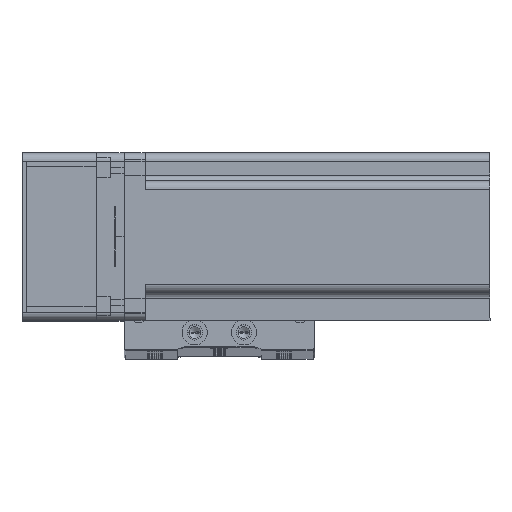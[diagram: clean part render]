
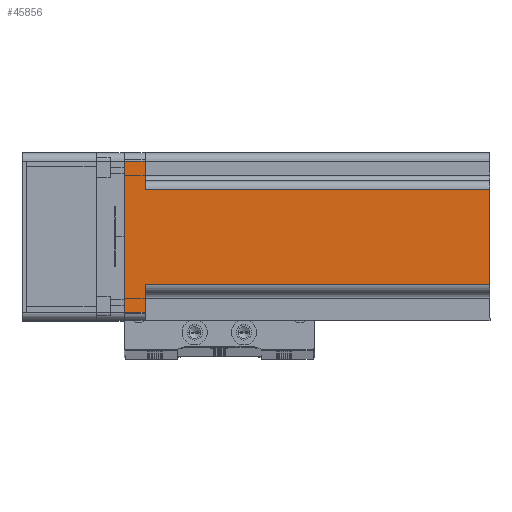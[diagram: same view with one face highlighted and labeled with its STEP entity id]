
A CAD part, top view. The second image highlights one B-rep face of the part: STEP entity #45856.
In plain terms, the highlighted planar face has unit normal (0, 0, 1) as drawn and (0, 1, 0) by its records, which use the part's own axes.
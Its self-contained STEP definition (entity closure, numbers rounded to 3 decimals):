
#1904 = PLANE ( 'NONE',  #53215 ) ;
#2358 = CARTESIAN_POINT ( 'NONE',  ( 27., 30., 130.7 ) ) ;
#2440 = CARTESIAN_POINT ( 'NONE',  ( -27., 30., 0. ) ) ;
#3553 = VERTEX_POINT ( 'NONE', #16961 ) ;
#4337 = VECTOR ( 'NONE', #36885, 1000. ) ;
#4930 = VERTEX_POINT ( 'NONE', #44104 ) ;
#5416 = ORIENTED_EDGE ( 'NONE', *, *, #31485, .T. ) ;
#6230 = VECTOR ( 'NONE', #60412, 1000. ) ;
#6766 = CARTESIAN_POINT ( 'NONE',  ( 17., 30., 130.7 ) ) ;
#8568 = VERTEX_POINT ( 'NONE', #38838 ) ;
#10032 = ORIENTED_EDGE ( 'NONE', *, *, #40562, .F. ) ;
#11587 = EDGE_CURVE ( 'NONE', #29368, #8568, #19101, .T. ) ;
#14594 = CARTESIAN_POINT ( 'NONE',  ( 17., 30., 130.7 ) ) ;
#15263 = EDGE_CURVE ( 'NONE', #35885, #4930, #52045, .T. ) ;
#15483 = CARTESIAN_POINT ( 'NONE',  ( 30., 30., 130.7 ) ) ;
#16961 = CARTESIAN_POINT ( 'NONE',  ( -17., 30., 130.7 ) ) ;
#17269 = ORIENTED_EDGE ( 'NONE', *, *, #11587, .T. ) ;
#17429 = DIRECTION ( 'NONE',  ( -1., 0., 0. ) ) ;
#17716 = DIRECTION ( 'NONE',  ( 0., 0., -1. ) ) ;
#19101 = LINE ( 'NONE', #53720, #32513 ) ;
#19154 = DIRECTION ( 'NONE',  ( 0., 0., 1. ) ) ;
#20553 = CARTESIAN_POINT ( 'NONE',  ( -17., 30., 7.5 ) ) ;
#21043 = LINE ( 'NONE', #25362, #46271 ) ;
#22096 = CARTESIAN_POINT ( 'NONE',  ( 30., 30., 130.7 ) ) ;
#22527 = ORIENTED_EDGE ( 'NONE', *, *, #15263, .T. ) ;
#24554 = VERTEX_POINT ( 'NONE', #20553 ) ;
#25217 = LINE ( 'NONE', #45115, #38594 ) ;
#25222 = VECTOR ( 'NONE', #17716, 1000. ) ;
#25362 = CARTESIAN_POINT ( 'NONE',  ( 30., 30., 0. ) ) ;
#25805 = LINE ( 'NONE', #33917, #64438 ) ;
#26781 = VERTEX_POINT ( 'NONE', #14594 ) ;
#27057 = ORIENTED_EDGE ( 'NONE', *, *, #56079, .F. ) ;
#27182 = DIRECTION ( 'NONE',  ( 1., 0., 0. ) ) ;
#28571 = DIRECTION ( 'NONE',  ( 0., 0., 1. ) ) ;
#29368 = VERTEX_POINT ( 'NONE', #2440 ) ;
#30139 = DIRECTION ( 'NONE',  ( 1., 0., 0. ) ) ;
#30634 = EDGE_CURVE ( 'NONE', #24554, #3553, #25805, .T. ) ;
#31485 = EDGE_CURVE ( 'NONE', #26781, #48983, #56328, .T. ) ;
#32513 = VECTOR ( 'NONE', #28571, 1000. ) ;
#33023 = LINE ( 'NONE', #15483, #6230 ) ;
#33917 = CARTESIAN_POINT ( 'NONE',  ( -17., 30., 130.7 ) ) ;
#34585 = EDGE_CURVE ( 'NONE', #4930, #29368, #21043, .T. ) ;
#35885 = VERTEX_POINT ( 'NONE', #38793 ) ;
#36885 = DIRECTION ( 'NONE',  ( 0., 0., -1. ) ) ;
#38594 = VECTOR ( 'NONE', #30139, 1000. ) ;
#38793 = CARTESIAN_POINT ( 'NONE',  ( 27., 30., 7.5 ) ) ;
#38838 = CARTESIAN_POINT ( 'NONE',  ( -27., 30., 7.5 ) ) ;
#40562 = EDGE_CURVE ( 'NONE', #26781, #3553, #33023, .T. ) ;
#41835 = ORIENTED_EDGE ( 'NONE', *, *, #34585, .T. ) ;
#42302 = FACE_OUTER_BOUND ( 'NONE', #56824, .T. ) ;
#44104 = CARTESIAN_POINT ( 'NONE',  ( 27., 30., 0. ) ) ;
#45115 = CARTESIAN_POINT ( 'NONE',  ( -20., 30., 7.5 ) ) ;
#45856 = ADVANCED_FACE ( 'NONE', ( #42302 ), #1904, .F. ) ;
#46271 = VECTOR ( 'NONE', #55547, 1000. ) ;
#48598 = LINE ( 'NONE', #52707, #61995 ) ;
#48983 = VERTEX_POINT ( 'NONE', #58044 ) ;
#52045 = LINE ( 'NONE', #2358, #25222 ) ;
#52707 = CARTESIAN_POINT ( 'NONE',  ( 20., 30., 7.5 ) ) ;
#53215 = AXIS2_PLACEMENT_3D ( 'NONE', #22096, #57376, #27182 ) ;
#53720 = CARTESIAN_POINT ( 'NONE',  ( -27., 30., 130.7 ) ) ;
#55547 = DIRECTION ( 'NONE',  ( -1., 0., 0. ) ) ;
#56079 = EDGE_CURVE ( 'NONE', #35885, #48983, #48598, .T. ) ;
#56328 = LINE ( 'NONE', #6766, #4337 ) ;
#56768 = ORIENTED_EDGE ( 'NONE', *, *, #63815, .T. ) ;
#56824 = EDGE_LOOP ( 'NONE', ( #56768, #60285, #10032, #5416, #27057, #22527, #41835, #17269 ) ) ;
#57376 = DIRECTION ( 'NONE',  ( 0., -1., 0. ) ) ;
#58044 = CARTESIAN_POINT ( 'NONE',  ( 17., 30., 7.5 ) ) ;
#60285 = ORIENTED_EDGE ( 'NONE', *, *, #30634, .T. ) ;
#60412 = DIRECTION ( 'NONE',  ( -1., 0., 0. ) ) ;
#61995 = VECTOR ( 'NONE', #17429, 1000. ) ;
#63815 = EDGE_CURVE ( 'NONE', #8568, #24554, #25217, .T. ) ;
#64438 = VECTOR ( 'NONE', #19154, 1000. ) ;
